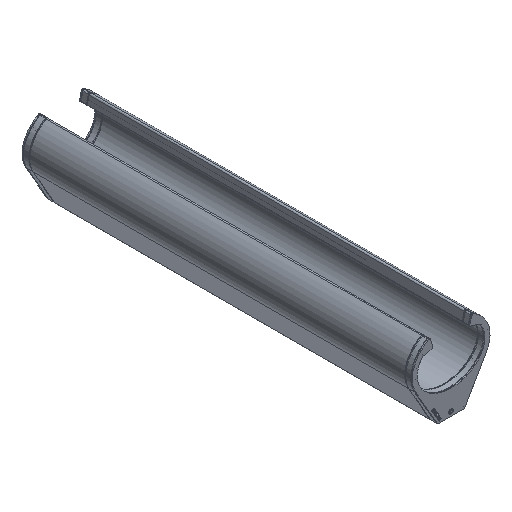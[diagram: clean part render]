
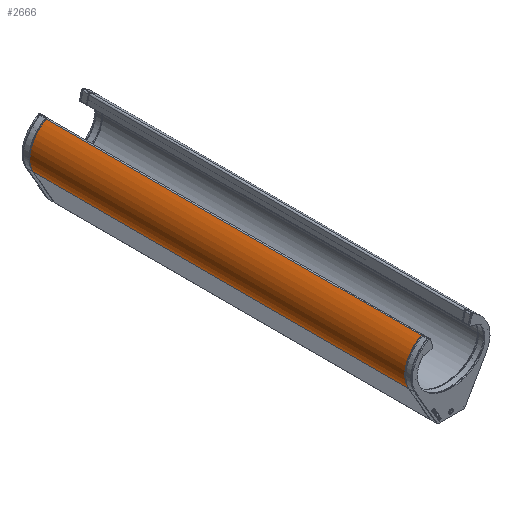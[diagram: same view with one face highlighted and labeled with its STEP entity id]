
A CAD part, isometric view. The second image highlights one B-rep face of the part: STEP entity #2666.
In plain terms, the highlighted free-form (B-spline) face has degree [3, 1] with [4, 2] control points.
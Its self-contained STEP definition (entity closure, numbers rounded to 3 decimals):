
#761 = CARTESIAN_POINT ( 'NONE',  ( -51.951, 277.5, -20.358 ) ) ;
#1139 = VERTEX_POINT ( 'NONE', #17278 ) ;
#1866 = CARTESIAN_POINT ( 'NONE',  ( -57.107, 277.5, 24.719 ) ) ;
#2378 = FACE_OUTER_BOUND ( 'NONE', #28766, .T. ) ;
#2666 = ADVANCED_FACE ( 'NONE', ( #2378 ), #30622, .F. ) ;
#2734 = CARTESIAN_POINT ( 'NONE',  ( -57.107, -277.55, 24.719 ) ) ;
#2835 = ORIENTED_EDGE ( 'NONE', *, *, #15677, .F. ) ;
#2938 = CARTESIAN_POINT ( 'NONE',  ( -64.449, -277.55, 1.406 ) ) ;
#3327 = CARTESIAN_POINT ( 'NONE',  ( -57.107, 277.5, 24.719 ) ) ;
#3531 =( BOUNDED_CURVE ( )  B_SPLINE_CURVE ( 3, ( #14783, #21616, #2734, #9839 ),
 .UNSPECIFIED., .F., .F. ) 
 B_SPLINE_CURVE_WITH_KNOTS ( ( 4, 4 ),
 ( 2.699, 4.094 ),
 .UNSPECIFIED. ) 
 CURVE ( )  GEOMETRIC_REPRESENTATION_ITEM ( )  RATIONAL_B_SPLINE_CURVE ( ( 1., 0.844, 0.844, 1. ) ) 
 REPRESENTATION_ITEM ( '' )  );
#6104 = EDGE_CURVE ( 'NONE', #1139, #30335, #11061, .T. ) ;
#6511 = CARTESIAN_POINT ( 'NONE',  ( -33.354, 277.5, 38.692 ) ) ;
#7795 = CARTESIAN_POINT ( 'NONE',  ( -57.107, -277.55, 24.719 ) ) ;
#8998 = CARTESIAN_POINT ( 'NONE',  ( -51.951, 277.5, -20.358 ) ) ;
#9793 = ORIENTED_EDGE ( 'NONE', *, *, #27997, .T. ) ;
#9839 = CARTESIAN_POINT ( 'NONE',  ( -33.354, -277.55, 38.692 ) ) ;
#10324 = DIRECTION ( 'NONE',  ( 0., 1., 0. ) ) ;
#11061 = LINE ( 'NONE', #20203, #12546 ) ;
#11614 = CARTESIAN_POINT ( 'NONE',  ( -33.354, 277.5, 38.692 ) ) ;
#12546 = VECTOR ( 'NONE', #15451, 1000. ) ;
#14628 = CARTESIAN_POINT ( 'NONE',  ( -33.354, -277.55, 38.692 ) ) ;
#14783 = CARTESIAN_POINT ( 'NONE',  ( -51.951, -277.55, -20.358 ) ) ;
#15398 = VECTOR ( 'NONE', #10324, 1000. ) ;
#15451 = DIRECTION ( 'NONE',  ( 0., -1., 0. ) ) ;
#15677 = EDGE_CURVE ( 'NONE', #1139, #26279, #24386, .T. ) ;
#17278 = CARTESIAN_POINT ( 'NONE',  ( -51.951, 277.5, -20.358 ) ) ;
#19634 = CARTESIAN_POINT ( 'NONE',  ( -64.449, 277.5, 1.406 ) ) ;
#20203 = CARTESIAN_POINT ( 'NONE',  ( -51.951, 277.5, -20.358 ) ) ;
#20657 = CARTESIAN_POINT ( 'NONE',  ( -64.449, 277.5, 1.406 ) ) ;
#21616 = CARTESIAN_POINT ( 'NONE',  ( -64.449, -277.55, 1.406 ) ) ;
#21625 = VERTEX_POINT ( 'NONE', #14628 ) ;
#22026 = CARTESIAN_POINT ( 'NONE',  ( -33.354, 277.5, 38.692 ) ) ;
#23239 = CARTESIAN_POINT ( 'NONE',  ( -51.951, -277.55, -20.358 ) ) ;
#24306 = CARTESIAN_POINT ( 'NONE',  ( -51.951, -277.55, -20.358 ) ) ;
#24386 =( BOUNDED_CURVE ( )  B_SPLINE_CURVE ( 3, ( #8998, #20657, #1866, #6511 ),
 .UNSPECIFIED., .F., .F. ) 
 B_SPLINE_CURVE_WITH_KNOTS ( ( 4, 4 ),
 ( 2.699, 4.094 ),
 .UNSPECIFIED. ) 
 CURVE ( )  GEOMETRIC_REPRESENTATION_ITEM ( )  RATIONAL_B_SPLINE_CURVE ( ( 1., 0.844, 0.844, 1. ) ) 
 REPRESENTATION_ITEM ( '' )  );
#24411 = CARTESIAN_POINT ( 'NONE',  ( -33.354, -277.55, 38.692 ) ) ;
#25418 = LINE ( 'NONE', #29335, #15398 ) ;
#26279 = VERTEX_POINT ( 'NONE', #11614 ) ;
#27997 = EDGE_CURVE ( 'NONE', #30335, #21625, #3531, .T. ) ;
#28118 = EDGE_CURVE ( 'NONE', #21625, #26279, #25418, .T. ) ;
#28187 = ORIENTED_EDGE ( 'NONE', *, *, #28118, .T. ) ;
#28766 = EDGE_LOOP ( 'NONE', ( #29924, #9793, #28187, #2835 ) ) ;
#29335 = CARTESIAN_POINT ( 'NONE',  ( -33.354, -277.5, 38.692 ) ) ;
#29924 = ORIENTED_EDGE ( 'NONE', *, *, #6104, .T. ) ;
#30335 = VERTEX_POINT ( 'NONE', #23239 ) ;
#30622 =( BOUNDED_SURFACE ( )  B_SPLINE_SURFACE ( 3, 1, ( 
 ( #761, #24306 ),
 ( #19634, #2938 ),
 ( #3327, #7795 ),
 ( #22026, #24411 ) ),
 .UNSPECIFIED., .F., .F., .F. ) 
 B_SPLINE_SURFACE_WITH_KNOTS ( ( 4, 4 ),
 ( 2, 2 ),
 ( 0., 1. ),
 ( 0., 1. ),
 .UNSPECIFIED. ) 
 GEOMETRIC_REPRESENTATION_ITEM ( )  RATIONAL_B_SPLINE_SURFACE ( (
 ( 1., 1.),
 ( 0.844, 0.844),
 ( 0.844, 0.844),
 ( 1., 1.) ) ) 
 REPRESENTATION_ITEM ( '' )  SURFACE ( )  );
